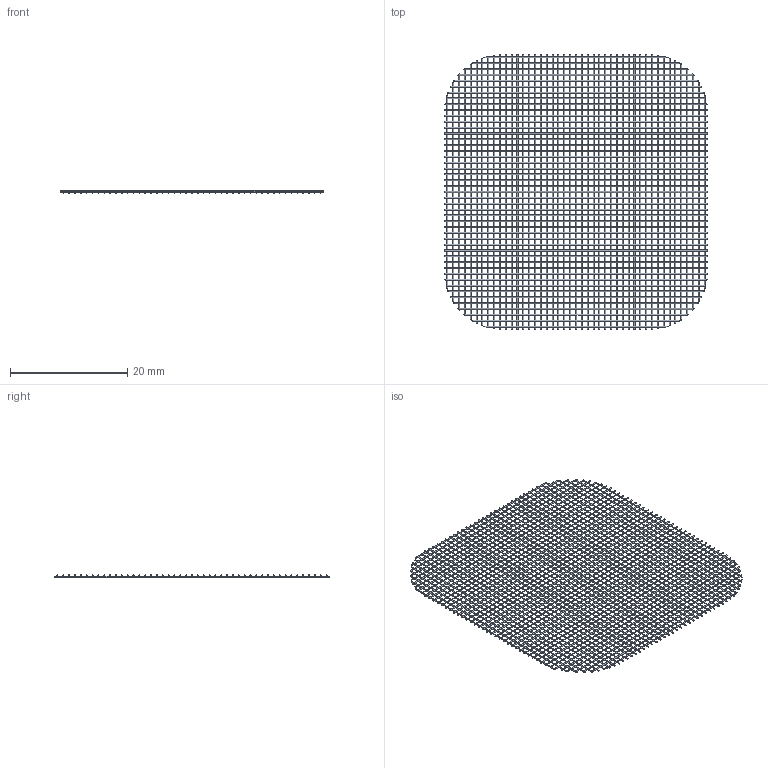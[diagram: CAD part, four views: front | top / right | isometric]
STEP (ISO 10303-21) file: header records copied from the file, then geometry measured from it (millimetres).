
FILE_DESCRIPTION(/* description */ (''),/* implementation_level */ '2;1');
FILE_NAME(/* name */ 'C28_R1_61_Graphite_Woven_Mesh_REFERENCE_RODS.step',/* time_stamp */ '2026-09-10T12:11:26-07:00',/* author */ (''),/* organization */ (''),/* preprocessor_version */ 'ST-DEVELOPER v20.1',/* originating_system */ 'Autodesk Translation Framework v15.8.0.0',/* authorisation */ '');
FILE_SCHEMA (('AUTOMOTIVE_DESIGN { 1 0 10303 214 3 1 1 }'));
Length unit declared in the file: millimetre
Products named in the file (1): 2026-09-10-12-11-25-927
Bounding box: 45 x 47 x 0.36 mm (x, y, z)
Volume: 103.3 mm3; surface area: 2301.7 mm2
Topology: 92 solids, 92 shells, 276 faces, 316 edges, 224 vertices
Faces by surface type: cylinder 172, plane 104
Full cylindrical faces by diameter (mm): 0.18 x92
Entity records: 7854 total; most frequent: CARTESIAN_POINT 3625, DIRECTION 854, ORIENTED_EDGE 632, AXIS2_PLACEMENT_3D 381, EDGE_CURVE 316, FACE_OUTER_BOUND 276, EDGE_LOOP 276, ADVANCED_FACE 276
